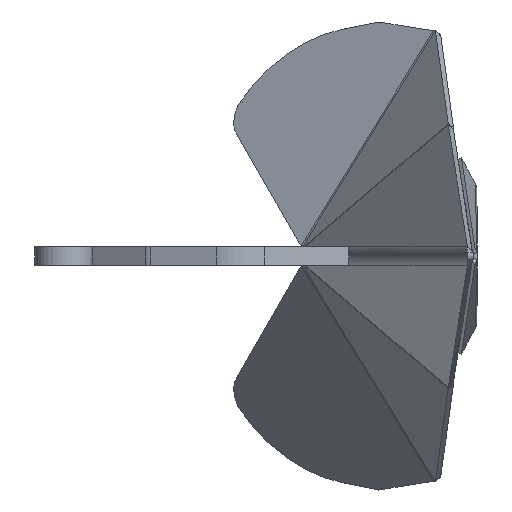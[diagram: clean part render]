
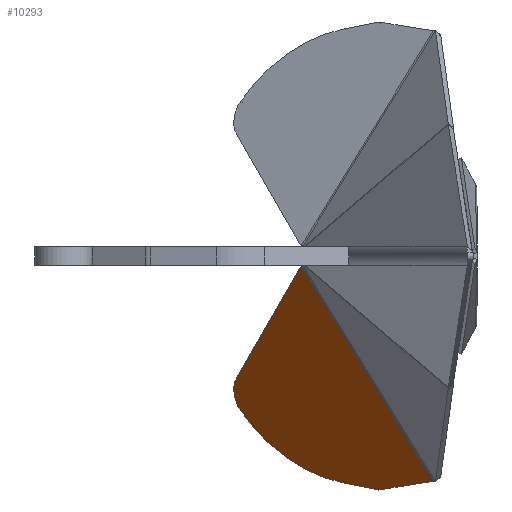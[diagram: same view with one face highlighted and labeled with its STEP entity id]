
A CAD part, left-side view. The second image highlights one B-rep face of the part: STEP entity #10293.
In plain terms, the highlighted planar face has unit normal (-0.735, 0.504, -0.454) as drawn and (-0.531, 0.242, -0.812) by its records, which use the part's own axes.
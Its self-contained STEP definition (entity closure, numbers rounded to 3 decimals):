
#9257=DIRECTION('',(0.745,-0.323,-0.583));
#9258=VECTOR('',#9257,140.947);
#9259=CARTESIAN_POINT('',(434.016,-3.864,
-8.385));
#9260=LINE('',#9259,#9258);
#9261=DIRECTION('',(0.848,0.138,-0.513));
#9262=VECTOR('',#9261,1.491);
#9263=CARTESIAN_POINT('',(432.752,-4.069,
-7.62));
#9264=LINE('',#9263,#9262);
#9265=DIRECTION('',(-0.834,-0.323,0.448));
#9266=VECTOR('',#9265,58.091);
#9267=CARTESIAN_POINT('',(478.509,-189.272,
-92.779));
#9268=LINE('',#9267,#9266);
#9269=DIRECTION('',(-0.738,-0.604,0.301));
#9270=VECTOR('',#9269,33.615);
#9271=CARTESIAN_POINT('',(503.301,-168.958,
-102.911));
#9272=LINE('',#9271,#9270);
#9273=CARTESIAN_POINT('',(455.841,-82.742,
-46.181));
#9274=DIRECTION('',(-0.531,0.242,-0.812));
#9275=DIRECTION('',(0.845,0.081,-0.528));
#9276=AXIS2_PLACEMENT_3D('',#9273,#9274,#9275);
#9278=CARTESIAN_POINT('',(527.352,-75.929,
-90.859));
#9279=DIRECTION('',(-0.531,0.242,-0.812));
#9280=DIRECTION('',(0.404,0.915,0.009));
#9281=AXIS2_PLACEMENT_3D('',#9278,#9279,#9280);
#9283=DIRECTION('',(-0.013,-0.96,-0.278));
#9284=VECTOR('',#9283,212.393);
#9285=CARTESIAN_POINT('',(432.752,-4.069,
-7.62));
#9286=LINE('',#9285,#9284);
#9470=CARTESIAN_POINT('',(539.062,-49.4,
-90.591));
#9471=CARTESIAN_POINT('',(551.866,-73.593,
-106.175));
#9472=VERTEX_POINT('',#9470);
#9473=VERTEX_POINT('',#9471);
#9474=CARTESIAN_POINT('',(503.301,-168.958,
-102.911));
#9475=VERTEX_POINT('',#9474);
#9476=CARTESIAN_POINT('',(478.509,-189.272,
-92.779));
#9477=VERTEX_POINT('',#9476);
#9482=CARTESIAN_POINT('',(430.087,-208.047,
-66.752));
#9484=VERTEX_POINT('',#9482);
#9535=CARTESIAN_POINT('',(434.016,-3.864,
-8.385));
#9536=VERTEX_POINT('',#9535);
#9539=CARTESIAN_POINT('',(432.752,-4.069,
-7.62));
#9540=VERTEX_POINT('',#9539);
#10274=CARTESIAN_POINT('',(64.959,-57.996,
216.532));
#10275=DIRECTION('',(-0.531,0.242,-0.812));
#10276=DIRECTION('',(0.848,0.138,-0.513));
#10277=AXIS2_PLACEMENT_3D('',#10274,#10275,#10276);
#10278=PLANE('',#10277);
#10279=ORIENTED_EDGE('',*,*,#10253,.F.);
#10280=ORIENTED_EDGE('',*,*,#10268,.F.);
#10282=ORIENTED_EDGE('',*,*,#10281,.T.);
#10284=ORIENTED_EDGE('',*,*,#10283,.F.);
#10286=ORIENTED_EDGE('',*,*,#10285,.F.);
#10288=ORIENTED_EDGE('',*,*,#10287,.F.);
#10290=ORIENTED_EDGE('',*,*,#10289,.F.);
#10291=EDGE_LOOP('',(#10279,#10280,#10282,#10284,#10286,#10288,#10290));
#10292=FACE_OUTER_BOUND('',#10291,.F.);
#9277=CIRCLE('',#9276,113.595);
#9282=CIRCLE('',#9281,29.);
#10253=EDGE_CURVE('',#9536,#9472,#9260,.T.);
#10268=EDGE_CURVE('',#9540,#9536,#9264,.T.);
#10281=EDGE_CURVE('',#9540,#9484,#9286,.T.);
#10283=EDGE_CURVE('',#9477,#9484,#9268,.T.);
#10285=EDGE_CURVE('',#9475,#9477,#9272,.T.);
#10287=EDGE_CURVE('',#9473,#9475,#9277,.T.);
#10289=EDGE_CURVE('',#9472,#9473,#9282,.T.);
#10293=ADVANCED_FACE('',(#10292),#10278,.T.);
